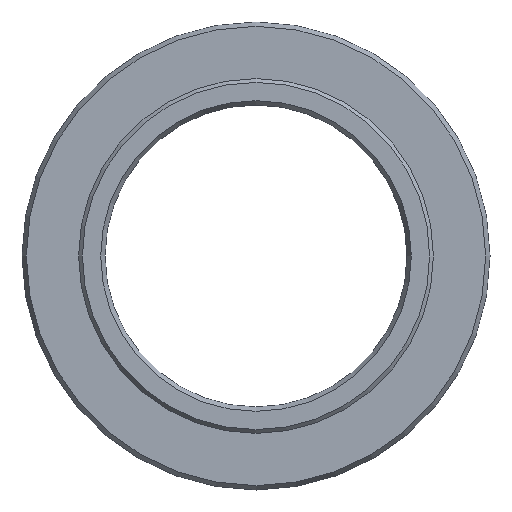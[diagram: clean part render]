
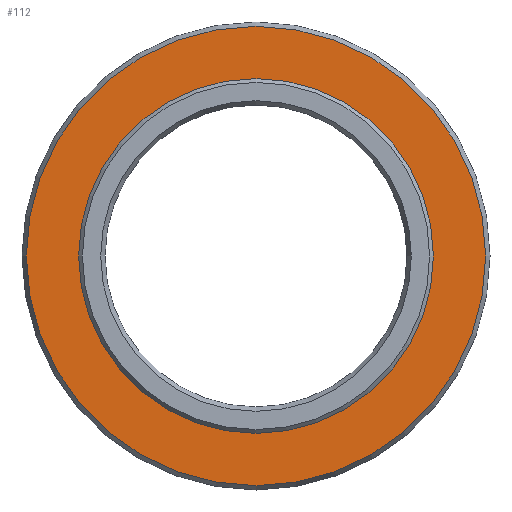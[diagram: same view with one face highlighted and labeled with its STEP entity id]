
A CAD part, left-side view. The second image highlights one B-rep face of the part: STEP entity #112.
In plain terms, the highlighted planar face has unit normal (-1, 0, 0).
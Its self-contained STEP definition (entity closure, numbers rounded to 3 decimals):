
#107=PLANE('',#279);
#112=ADVANCED_FACE('',(#131,#132),#107,.T.);
#131=FACE_BOUND('',#163,.T.);
#132=FACE_BOUND('',#164,.T.);
#163=EDGE_LOOP('',(#195));
#164=EDGE_LOOP('',(#196));
#195=ORIENTED_EDGE('',*,*,#243,.T.);
#196=ORIENTED_EDGE('',*,*,#244,.T.);
#227=VERTEX_POINT('',#379);
#228=VERTEX_POINT('',#381);
#243=EDGE_CURVE('',#227,#227,#259,.T.);
#244=EDGE_CURVE('',#228,#228,#260,.T.);
#259=CIRCLE('',#277,30.423);
#260=CIRCLE('',#278,23.5);
#277=AXIS2_PLACEMENT_3D('',#378,#314,#315);
#278=AXIS2_PLACEMENT_3D('',#380,#316,#317);
#279=AXIS2_PLACEMENT_3D('',#382,#318,#319);
#314=DIRECTION('',(-1.,0.,0.));
#315=DIRECTION('',(0.,0.,1.));
#316=DIRECTION('',(1.,0.,0.));
#317=DIRECTION('',(0.,0.,-1.));
#318=DIRECTION('',(-1.,0.,0.));
#319=DIRECTION('',(0.,0.,1.));
#378=CARTESIAN_POINT('',(0.,0.,0.));
#379=CARTESIAN_POINT('',(0.,0.,30.423));
#380=CARTESIAN_POINT('',(0.,0.,0.));
#381=CARTESIAN_POINT('',(0.,0.,-23.5));
#382=CARTESIAN_POINT('',(0.,31.,0.));
